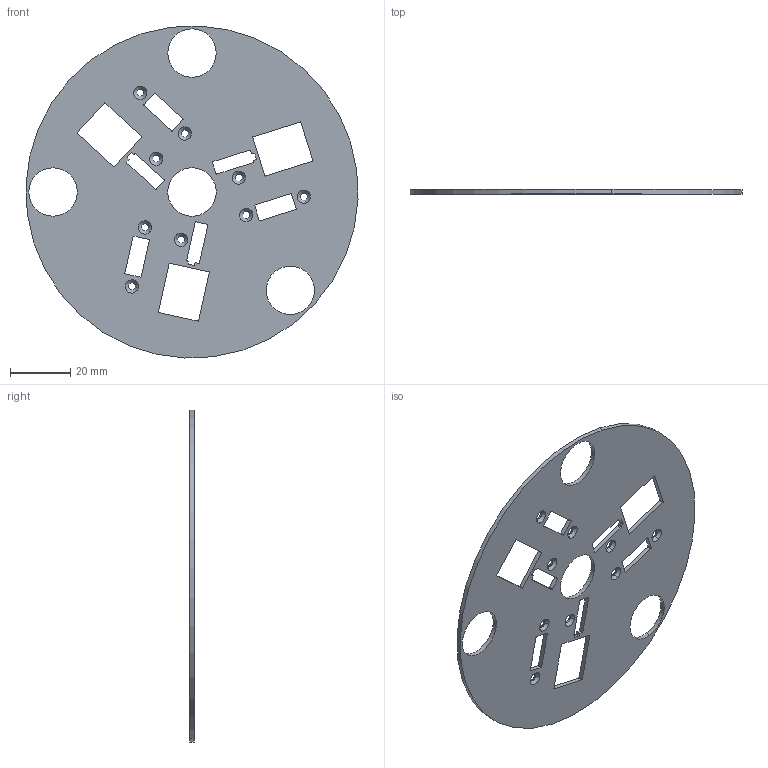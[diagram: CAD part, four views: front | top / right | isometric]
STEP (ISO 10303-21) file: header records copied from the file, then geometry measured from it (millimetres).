
FILE_DESCRIPTION(/* description */ ('VariCAD 2009-1.04 AP-203'),/* implementation_level */ '2;1');
FILE_NAME(/* name */ '0353-13-12',/* time_stamp */ '2009-11-20T18:11:25-07:00',/* author */ (''),/* organization */ (''),/* preprocessor_version */ 'ST-DEVELOPER v12',/* originating_system */ 'VariCAD 2009-1.04; kernel version (20080921)',/* authorisation */ '');
FILE_SCHEMA (('CONFIG_CONTROL_DESIGN'));
Length unit declared in the file: millimetre
Products named in the file (1): Part
Bounding box: 109.9 x 1.5 x 109.9 mm (x, y, z)
Volume: 11340.6 mm3; surface area: 16669.8 mm2
Topology: 1 solids, 1 shells, 141 faces, 417 edges, 278 vertices
Faces by surface type: cylinder 73, plane 50, cone 18
Entity records: 4927 total; most frequent: DIRECTION 885, CARTESIAN_POINT 838, ORIENTED_EDGE 834, EDGE_CURVE 417, AXIS2_PLACEMENT_3D 325, VERTEX_POINT 278, LINE 235, VECTOR 235
